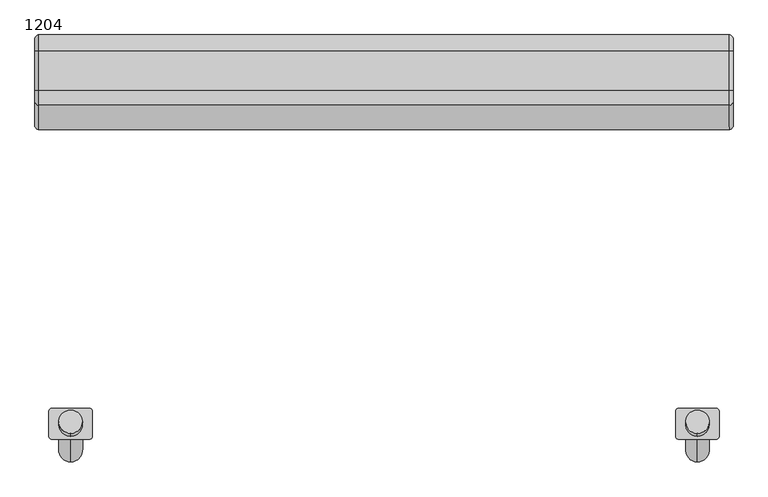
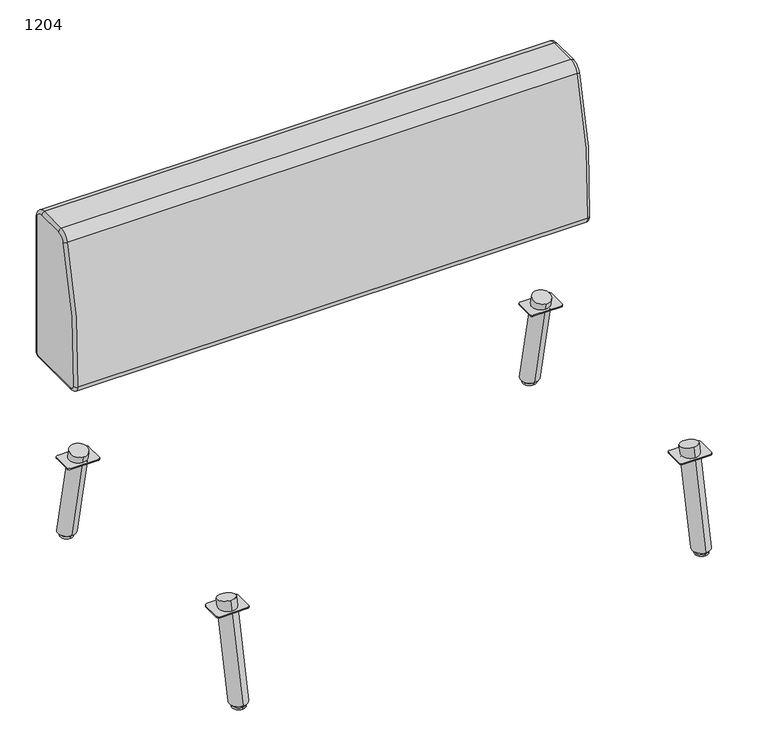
"""IFC4 building model written with IfcOpenShell, lengths in millimetres: furniture geometry, Laguna-Modular-Straight-ERG : 1204."""

from ifc_helpers import new_model, si_unit, point, frame, frame_2d, origin, place, context, project, spatial, polyline, circle_curve, ellipse_curve, trimmed, segment, composite_curve, outline, extrude, source, transform, mapped, element, save
from ifc_brep_helpers import plane_surface, cylinder_surface, revolved_surface, advanced_brep


def furniture_1204_c5cfecb2(model_context):
    return source(origin(), model_context, "Body", "SolidModel", [
        advanced_brep(
        [(-3602.2921763, 1186.8836653, 224.8295715), (-3602.2921763, 1149.6162417, 216.9081361), (-3602.2921763, 1193.5619147, 10.16), (-3602.2921763, 1232.5130913, 10.16)],
        [
            (0, 1, circle_curve(frame((-3602.2921763, 1168.2499535, 220.8688538), z_axis=(0.0, -0.20791169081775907, 0.9781476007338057), x_axis=(0.0, -0.9781476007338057, -0.20791169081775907)), 19.05)),
            (1, 0, circle_curve(frame((-3602.2921763, 1168.2499535, 220.8688538), z_axis=(0.0, -0.20791169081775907, 0.9781476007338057), x_axis=(0.0, -0.9781476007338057, -0.20791169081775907)), 19.05)),
            (1, 2),
            (2, 3, ellipse_curve(frame((-3602.2921763, 1213.037503, 10.16), z_axis=(0.0, 0.0, 1.0), x_axis=(0.0, -1.0, 0.0)), 19.4755883, 19.05)),
            (3, 0),
            (3, 2, ellipse_curve(frame((-3602.2921763, 1213.037503, 10.16), z_axis=(0.0, 0.0, 1.0), x_axis=(0.0, -1.0, 0.0)), 19.4755883, 19.05)),
        ],
        [
            plane_surface(frame((-3602.2921763, 1168.2499535, 220.8688538), z_axis=(0.0, -0.20791169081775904, 0.9781476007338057), x_axis=(1.0, 0.0, 0.0))),
            cylinder_surface(frame((-3602.2921763, 1168.2499535, 220.8688538), z_axis=(0.0, -0.20791169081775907, 0.9781476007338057), x_axis=(0.0, -0.9781476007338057, -0.20791169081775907)), 19.05),
            plane_surface(frame((-3633.679084, 1280.9022773, 10.16), z_axis=(0.0, 0.0, -1.0), x_axis=(1.0, 0.0, 0.0))),
        ],
        [
            (0, [[1, 2]]),
            (1, [[3, 4, 5, -2]]),
            (1, [[-5, 6, -3, -1]]),
            (2, [[-6, -4]]),
        ],
    ),
        advanced_brep(
        [(-4605.5924306, 1186.8836653, 224.8295715), (-4605.5924306, 1149.6162417, 216.9081361), (-4605.5924306, 1193.5619147, 10.16), (-4605.5924306, 1232.5130913, 10.16)],
        [
            (0, 1, circle_curve(frame((-4605.5924306, 1168.2499535, 220.8688538), z_axis=(0.0, -0.20791169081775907, 0.9781476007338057), x_axis=(0.0, -0.9781476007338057, -0.20791169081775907)), 19.05)),
            (1, 0, circle_curve(frame((-4605.5924306, 1168.2499535, 220.8688538), z_axis=(0.0, -0.20791169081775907, 0.9781476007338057), x_axis=(0.0, -0.9781476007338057, -0.20791169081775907)), 19.05)),
            (1, 2),
            (2, 3, ellipse_curve(frame((-4605.5924306, 1213.037503, 10.16), z_axis=(0.0, 0.0, 1.0), x_axis=(0.0, -1.0, 0.0)), 19.4755883, 19.05)),
            (3, 0),
            (3, 2, ellipse_curve(frame((-4605.5924306, 1213.037503, 10.16), z_axis=(0.0, 0.0, 1.0), x_axis=(0.0, -1.0, 0.0)), 19.4755883, 19.05)),
        ],
        [
            plane_surface(frame((-4605.5924306, 1168.2499535, 220.8688538), z_axis=(0.0, -0.20791169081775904, 0.9781476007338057), x_axis=(1.0, 0.0, 0.0))),
            cylinder_surface(frame((-4605.5924306, 1168.2499535, 220.8688538), z_axis=(0.0, -0.20791169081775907, 0.9781476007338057), x_axis=(0.0, -0.9781476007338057, -0.20791169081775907)), 19.05),
            plane_surface(frame((-4636.9793383, 1280.9022773, 10.16), z_axis=(0.0, 0.0, -1.0), x_axis=(1.0, 0.0, 0.0))),
        ],
        [
            (0, [[1, 2]]),
            (1, [[3, 4, 5, -2]]),
            (1, [[-5, 6, -3, -1]]),
            (2, [[-6, -4]]),
        ],
    ),
        advanced_brep(
        [(-3602.2921763, 595.628035, 224.8295715), (-3602.2921763, 632.8954586, 216.9081361), (-3602.2921763, 549.998609, 10.16), (-3602.2921763, 588.9497857, 10.16)],
        [
            (0, 1, circle_curve(frame((-3602.2921763, 614.2617468, 220.8688538), z_axis=(0.0, 0.20791169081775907, 0.9781476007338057), x_axis=(0.0, 0.9781476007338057, -0.20791169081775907)), 19.05)),
            (1, 0, circle_curve(frame((-3602.2921763, 614.2617468, 220.8688538), z_axis=(0.0, 0.20791169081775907, 0.9781476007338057), x_axis=(0.0, 0.9781476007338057, -0.20791169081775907)), 19.05)),
            (0, 2),
            (2, 3, ellipse_curve(frame((-3602.2921763, 569.4741973, 10.16), z_axis=(0.0, 0.0, 1.0), x_axis=(0.0, 1.0, 0.0)), 19.4755883, 19.05)),
            (3, 1),
            (3, 2, ellipse_curve(frame((-3602.2921763, 569.4741973, 10.16), z_axis=(0.0, 0.0, 1.0), x_axis=(0.0, 1.0, 0.0)), 19.4755883, 19.05)),
        ],
        [
            plane_surface(frame((-3602.2921763, 614.2617468, 220.8688538), z_axis=(0.0, 0.20791169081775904, 0.9781476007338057), x_axis=(1.0, 0.0, 0.0))),
            cylinder_surface(frame((-3602.2921763, 614.2617468, 220.8688538), z_axis=(0.0, 0.20791169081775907, 0.9781476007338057), x_axis=(0.0, 0.9781476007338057, -0.20791169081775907)), 19.05),
            plane_surface(frame((-3633.679084, 501.6094231, 10.16), z_axis=(0.0, 0.0, -1.0), x_axis=(1.0, 0.0, 0.0))),
        ],
        [
            (0, [[1, 2]]),
            (1, [[-1, 3, 4, 5]]),
            (1, [[-2, -5, 6, -3]]),
            (2, [[-4, -6]]),
        ],
    ),
        advanced_brep(
        [(-4605.5924306, 595.628035, 224.8295715), (-4605.5924306, 632.8954586, 216.9081361), (-4605.5924306, 549.998609, 10.16), (-4605.5924306, 588.9497857, 10.16)],
        [
            (0, 1, circle_curve(frame((-4605.5924306, 614.2617468, 220.8688538), z_axis=(0.0, 0.20791169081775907, 0.9781476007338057), x_axis=(0.0, 0.9781476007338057, -0.20791169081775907)), 19.05)),
            (1, 0, circle_curve(frame((-4605.5924306, 614.2617468, 220.8688538), z_axis=(0.0, 0.20791169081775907, 0.9781476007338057), x_axis=(0.0, 0.9781476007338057, -0.20791169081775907)), 19.05)),
            (0, 2),
            (2, 3, ellipse_curve(frame((-4605.5924306, 569.4741973, 10.16), z_axis=(0.0, 0.0, 1.0), x_axis=(0.0, 1.0, 0.0)), 19.4755883, 19.05)),
            (3, 1),
            (3, 2, ellipse_curve(frame((-4605.5924306, 569.4741973, 10.16), z_axis=(0.0, 0.0, 1.0), x_axis=(0.0, 1.0, 0.0)), 19.4755883, 19.05)),
        ],
        [
            plane_surface(frame((-4605.5924306, 614.2617468, 220.8688538), z_axis=(0.0, 0.20791169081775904, 0.9781476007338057), x_axis=(1.0, 0.0, 0.0))),
            cylinder_surface(frame((-4605.5924306, 614.2617468, 220.8688538), z_axis=(0.0, 0.20791169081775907, 0.9781476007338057), x_axis=(0.0, 0.9781476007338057, -0.20791169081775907)), 19.05),
            plane_surface(frame((-4636.9793383, 501.6094231, 10.16), z_axis=(0.0, 0.0, -1.0), x_axis=(1.0, 0.0, 0.0))),
        ],
        [
            (0, [[1, 2]]),
            (1, [[-1, 3, 4, 5]]),
            (1, [[-2, -5, 6, -3]]),
            (2, [[-4, -6]]),
        ],
    ),
        extrude(outline(composite_curve([segment(polyline([(-4575.7474306, 586.4558502), (-4635.4374306, 586.4558502)]), True, "CONTINUOUS"), segment(trimmed(circle_curve(frame_2d((-4635.4374306, 591.5358502)), 5.08), [point((-4635.4374306, 586.4558502))], [point((-4640.5174306, 591.5358502))], False, "CARTESIAN"), True, "CONTINUOUS"), segment(polyline([(-4640.5174306, 591.5358502), (-4640.5174306, 630.9058502)]), True, "CONTINUOUS"), segment(trimmed(circle_curve(frame_2d((-4635.4374306, 630.9058502)), 5.08), [point((-4640.5174306, 630.9058502))], [point((-4635.4374306, 635.9858502))], False, "CARTESIAN"), True, "CONTINUOUS"), segment(polyline([(-4635.4374306, 635.9858502), (-4575.7474306, 635.9858502)]), True, "CONTINUOUS"), segment(trimmed(circle_curve(frame_2d((-4575.7474306, 630.9058502)), 5.08), [point((-4575.7474306, 635.9858502))], [point((-4570.6674306, 630.9058502))], False, "CARTESIAN"), True, "CONTINUOUS"), segment(polyline([(-4570.6674306, 630.9058502), (-4570.6674306, 591.5358502)]), True, "CONTINUOUS"), segment(trimmed(circle_curve(frame_2d((-4575.7474306, 591.5358502)), 5.08), [point((-4570.6674306, 591.5358502))], [point((-4575.7474306, 586.4558502))], False, "CARTESIAN"), True, "CONTINUOUS")], self_intersect=False)), frame((0.0, 0.0, 200.66), z_axis=(0.0, 0.0, 1.0), x_axis=(1.0, 0.0, 0.0)), (0.0, 0.0, 1.0), 2.54),
        extrude(outline(composite_curve([segment(trimmed(circle_curve(frame_2d((-4575.7474306, 1190.9758502)), 5.08), [point((-4575.7474306, 1196.0558502))], [point((-4570.6674306, 1190.9758502))], False, "CARTESIAN"), True, "CONTINUOUS"), segment(polyline([(-4570.6674306, 1190.9758502), (-4570.6674306, 1151.6058502)]), True, "CONTINUOUS"), segment(trimmed(circle_curve(frame_2d((-4575.7474306, 1151.6058502)), 5.08), [point((-4570.6674306, 1151.6058502))], [point((-4575.7474306, 1146.5258502))], False, "CARTESIAN"), True, "CONTINUOUS"), segment(polyline([(-4575.7474306, 1146.5258502), (-4635.4374306, 1146.5258502)]), True, "CONTINUOUS"), segment(trimmed(circle_curve(frame_2d((-4635.4374306, 1151.6058502)), 5.08), [point((-4635.4374306, 1146.5258502))], [point((-4640.5174306, 1151.6058502))], False, "CARTESIAN"), True, "CONTINUOUS"), segment(polyline([(-4640.5174306, 1151.6058502), (-4640.5174306, 1190.9758502)]), True, "CONTINUOUS"), segment(trimmed(circle_curve(frame_2d((-4635.4374306, 1190.9758502)), 5.08), [point((-4640.5174306, 1190.9758502))], [point((-4635.4374306, 1196.0558502))], False, "CARTESIAN"), True, "CONTINUOUS"), segment(polyline([(-4635.4374306, 1196.0558502), (-4575.7474306, 1196.0558502)]), True, "CONTINUOUS")], self_intersect=False)), frame((0.0, 0.0, 200.66), z_axis=(0.0, 0.0, 1.0), x_axis=(1.0, 0.0, 0.0)), (0.0, 0.0, 1.0), 2.54),
        extrude(outline(composite_curve([segment(trimmed(circle_curve(frame_2d((-3632.136922, 591.5358502)), 5.08), [point((-3632.136922, 586.4558502))], [point((-3637.216922, 591.5358502))], False, "CARTESIAN"), True, "CONTINUOUS"), segment(polyline([(-3637.216922, 591.5358502), (-3637.216922, 630.9058502)]), True, "CONTINUOUS"), segment(trimmed(circle_curve(frame_2d((-3632.136922, 630.9058502)), 5.08), [point((-3637.216922, 630.9058502))], [point((-3632.136922, 635.9858502))], False, "CARTESIAN"), True, "CONTINUOUS"), segment(polyline([(-3632.136922, 635.9858502), (-3572.446922, 635.9858502)]), True, "CONTINUOUS"), segment(trimmed(circle_curve(frame_2d((-3572.446922, 630.9058502)), 5.08), [point((-3572.446922, 635.9858502))], [point((-3567.366922, 630.9058502))], False, "CARTESIAN"), True, "CONTINUOUS"), segment(polyline([(-3567.366922, 630.9058502), (-3567.366922, 591.5358502)]), True, "CONTINUOUS"), segment(trimmed(circle_curve(frame_2d((-3572.446922, 591.5358502)), 5.08), [point((-3567.366922, 591.5358502))], [point((-3572.446922, 586.4558502))], False, "CARTESIAN"), True, "CONTINUOUS"), segment(polyline([(-3572.446922, 586.4558502), (-3632.136922, 586.4558502)]), True, "CONTINUOUS")], self_intersect=False)), frame((0.0, 0.0, 200.66), z_axis=(0.0, 0.0, 1.0), x_axis=(1.0, 0.0, 0.0)), (0.0, 0.0, 1.0), 2.54),
        extrude(outline(composite_curve([segment(polyline([(-3632.136922, 1196.0558502), (-3572.446922, 1196.0558502)]), True, "CONTINUOUS"), segment(trimmed(circle_curve(frame_2d((-3572.446922, 1190.9758502)), 5.08), [point((-3572.446922, 1196.0558502))], [point((-3567.366922, 1190.9758502))], False, "CARTESIAN"), True, "CONTINUOUS"), segment(polyline([(-3567.366922, 1190.9758502), (-3567.366922, 1151.6058502)]), True, "CONTINUOUS"), segment(trimmed(circle_curve(frame_2d((-3572.446922, 1151.6058502)), 5.08), [point((-3567.366922, 1151.6058502))], [point((-3572.446922, 1146.5258502))], False, "CARTESIAN"), True, "CONTINUOUS"), segment(polyline([(-3572.446922, 1146.5258502), (-3632.136922, 1146.5258502)]), True, "CONTINUOUS"), segment(trimmed(circle_curve(frame_2d((-3632.136922, 1151.6058502)), 5.08), [point((-3632.136922, 1146.5258502))], [point((-3637.216922, 1151.6058502))], False, "CARTESIAN"), True, "CONTINUOUS"), segment(polyline([(-3637.216922, 1151.6058502), (-3637.216922, 1190.9758502)]), True, "CONTINUOUS"), segment(trimmed(circle_curve(frame_2d((-3632.136922, 1190.9758502)), 5.08), [point((-3637.216922, 1190.9758502))], [point((-3632.136922, 1196.0558502))], False, "CARTESIAN"), True, "CONTINUOUS")], self_intersect=False)), frame((0.0, 0.0, 200.66), z_axis=(0.0, 0.0, 1.0), x_axis=(1.0, 0.0, 0.0)), (0.0, 0.0, 1.0), 2.54),
        advanced_brep(
        [(-3602.2921763, 1218.5428448, 10.16), (-3602.2921763, 1210.0567485, 10.16), (-3602.2921763, 1214.2997967, 10.16), (-3602.2921763, 1214.2997967, 0.0), (-3602.2921763, 1200.2214432, 0.0), (-3602.2921763, 1228.3781501, 0.0), (-3602.2921763, 1200.2214432, 3.9615026), (-3602.2921763, 1228.3781501, 3.9615026), (-3602.2921763, 1210.0567485, 3.9615026), (-3602.2921763, 1218.5428448, 3.9615026)],
        [
            (0, 1, circle_curve(frame((-3602.2921763, 1214.2997967, 10.16), z_axis=(0.0, 0.0, 1.0), x_axis=(0.0, -1.0, 0.0)), 4.2430482)),
            (1, 2),
            (2, 0),
            (1, 0, circle_curve(frame((-3602.2921763, 1214.2997967, 10.16), z_axis=(0.0, 0.0, 1.0), x_axis=(0.0, -1.0, 0.0)), 4.2430482)),
            (3, 4),
            (4, 5, circle_curve(frame((-3602.2921763, 1214.2997967, 0.0), z_axis=(0.0, 0.0, -1.0), x_axis=(0.0, -1.0, 0.0)), 14.0783534)),
            (5, 3),
            (5, 4, circle_curve(frame((-3602.2921763, 1214.2997967, 0.0), z_axis=(0.0, 0.0, -1.0), x_axis=(0.0, -1.0, 0.0)), 14.0783534)),
            (4, 6),
            (6, 7, circle_curve(frame((-3602.2921763, 1214.2997967, 3.9615026), z_axis=(0.0, 0.0, -1.0), x_axis=(0.0, -1.0, 0.0)), 14.0783534)),
            (7, 5),
            (7, 6, circle_curve(frame((-3602.2921763, 1214.2997967, 3.9615026), z_axis=(0.0, 0.0, -1.0), x_axis=(0.0, -1.0, 0.0)), 14.0783534)),
            (6, 8),
            (8, 9, circle_curve(frame((-3602.2921763, 1214.2997967, 3.9615026), z_axis=(0.0, 0.0, -1.0), x_axis=(0.0, -1.0, 0.0)), 4.2430482)),
            (9, 7),
            (9, 8, circle_curve(frame((-3602.2921763, 1214.2997967, 3.9615026), z_axis=(0.0, 0.0, -1.0), x_axis=(0.0, -1.0, 0.0)), 4.2430482)),
            (8, 1),
            (0, 9),
        ],
        [
            plane_surface(frame((-3602.2921763, 1214.2997967, 10.16), z_axis=(0.0, 0.0, 1.0), x_axis=(0.0, -1.0, 0.0))),
            plane_surface(frame((-3602.2921763, 1214.2997967, 0.0), z_axis=(0.0, 0.0, -1.0), x_axis=(0.0, -1.0, 0.0))),
            cylinder_surface(frame((-3602.2921763, 1214.2997967, 10.16), z_axis=(0.0, 0.0, -1.0), x_axis=(0.0, -1.0, 0.0)), 14.0783534),
            plane_surface(frame((-3602.2921763, 1214.2997967, 3.9615026), z_axis=(0.0, 0.0, 1.0), x_axis=(0.0, -1.0, 0.0))),
            cylinder_surface(frame((-3602.2921763, 1214.2997967, 10.16), z_axis=(0.0, 0.0, -1.0), x_axis=(0.0, -1.0, 0.0)), 4.2430482),
        ],
        [
            (0, [[1, 2, 3]]),
            (0, [[4, -3, -2]]),
            (1, [[5, 6, 7]]),
            (1, [[-7, 8, -5]]),
            (2, [[-6, 9, 10, 11]]),
            (2, [[-8, -11, 12, -9]]),
            (3, [[-10, 13, 14, 15]]),
            (3, [[-12, -15, 16, -13]]),
            (4, [[-14, 17, -1, 18]]),
            (4, [[-16, -18, -4, -17]]),
        ],
    ),
        advanced_brep(
        [(-4605.5924306, 1218.5428448, 10.16), (-4605.5924306, 1210.0567485, 10.16), (-4605.5924306, 1214.2997967, 10.16), (-4605.5924306, 1214.2997967, 0.0), (-4605.5924306, 1200.2214432, 0.0), (-4605.5924306, 1228.3781501, 0.0), (-4605.5924306, 1200.2214432, 3.9615026), (-4605.5924306, 1228.3781501, 3.9615026), (-4605.5924306, 1210.0567485, 3.9615026), (-4605.5924306, 1218.5428448, 3.9615026)],
        [
            (0, 1, circle_curve(frame((-4605.5924306, 1214.2997967, 10.16), z_axis=(0.0, 0.0, 1.0), x_axis=(0.0, -1.0, 0.0)), 4.2430482)),
            (1, 2),
            (2, 0),
            (1, 0, circle_curve(frame((-4605.5924306, 1214.2997967, 10.16), z_axis=(0.0, 0.0, 1.0), x_axis=(0.0, -1.0, 0.0)), 4.2430482)),
            (3, 4),
            (4, 5, circle_curve(frame((-4605.5924306, 1214.2997967, 0.0), z_axis=(0.0, 0.0, -1.0), x_axis=(0.0, -1.0, 0.0)), 14.0783534)),
            (5, 3),
            (5, 4, circle_curve(frame((-4605.5924306, 1214.2997967, 0.0), z_axis=(0.0, 0.0, -1.0), x_axis=(0.0, -1.0, 0.0)), 14.0783534)),
            (4, 6),
            (6, 7, circle_curve(frame((-4605.5924306, 1214.2997967, 3.9615026), z_axis=(0.0, 0.0, -1.0), x_axis=(0.0, -1.0, 0.0)), 14.0783534)),
            (7, 5),
            (7, 6, circle_curve(frame((-4605.5924306, 1214.2997967, 3.9615026), z_axis=(0.0, 0.0, -1.0), x_axis=(0.0, -1.0, 0.0)), 14.0783534)),
            (6, 8),
            (8, 9, circle_curve(frame((-4605.5924306, 1214.2997967, 3.9615026), z_axis=(0.0, 0.0, -1.0), x_axis=(0.0, -1.0, 0.0)), 4.2430482)),
            (9, 7),
            (9, 8, circle_curve(frame((-4605.5924306, 1214.2997967, 3.9615026), z_axis=(0.0, 0.0, -1.0), x_axis=(0.0, -1.0, 0.0)), 4.2430482)),
            (8, 1),
            (0, 9),
        ],
        [
            plane_surface(frame((-4605.5924306, 1214.2997967, 10.16), z_axis=(0.0, 0.0, 1.0), x_axis=(0.0, -1.0, 0.0))),
            plane_surface(frame((-4605.5924306, 1214.2997967, 0.0), z_axis=(0.0, 0.0, -1.0), x_axis=(0.0, -1.0, 0.0))),
            cylinder_surface(frame((-4605.5924306, 1214.2997967, 10.16), z_axis=(0.0, 0.0, -1.0), x_axis=(0.0, -1.0, 0.0)), 14.0783534),
            plane_surface(frame((-4605.5924306, 1214.2997967, 3.9615026), z_axis=(0.0, 0.0, 1.0), x_axis=(0.0, -1.0, 0.0))),
            cylinder_surface(frame((-4605.5924306, 1214.2997967, 10.16), z_axis=(0.0, 0.0, -1.0), x_axis=(0.0, -1.0, 0.0)), 4.2430482),
        ],
        [
            (0, [[1, 2, 3]]),
            (0, [[4, -3, -2]]),
            (1, [[5, 6, 7]]),
            (1, [[-7, 8, -5]]),
            (2, [[-6, 9, 10, 11]]),
            (2, [[-8, -11, 12, -9]]),
            (3, [[-10, 13, 14, 15]]),
            (3, [[-12, -15, 16, -13]]),
            (4, [[-14, 17, -1, 18]]),
            (4, [[-16, -18, -4, -17]]),
        ],
    ),
        advanced_brep(
        [(-3602.2921763, 568.2119037, 10.16), (-3602.2921763, 572.4549518, 10.16), (-3602.2921763, 563.9688555, 10.16), (-3602.2921763, 554.1335502, 0.0), (-3602.2921763, 582.2902571, 0.0), (-3602.2921763, 568.2119037, 0.0), (-3602.2921763, 554.1335502, 3.9615026), (-3602.2921763, 582.2902571, 3.9615026), (-3602.2921763, 563.9688555, 3.9615026), (-3602.2921763, 572.4549518, 3.9615026)],
        [
            (0, 1),
            (1, 2, circle_curve(frame((-3602.2921763, 568.2119037, 10.16), z_axis=(0.0, 0.0, 1.0), x_axis=(0.0, 1.0, 0.0)), 4.2430482)),
            (2, 0),
            (2, 1, circle_curve(frame((-3602.2921763, 568.2119037, 10.16), z_axis=(0.0, 0.0, 1.0), x_axis=(0.0, 1.0, 0.0)), 4.2430482)),
            (3, 4, circle_curve(frame((-3602.2921763, 568.2119037, 0.0), z_axis=(0.0, 0.0, -1.0), x_axis=(0.0, 1.0, 0.0)), 14.0783534)),
            (4, 5),
            (5, 3),
            (4, 3, circle_curve(frame((-3602.2921763, 568.2119037, 0.0), z_axis=(0.0, 0.0, -1.0), x_axis=(0.0, 1.0, 0.0)), 14.0783534)),
            (6, 7, circle_curve(frame((-3602.2921763, 568.2119037, 3.9615026), z_axis=(0.0, 0.0, -1.0), x_axis=(0.0, 1.0, 0.0)), 14.0783534)),
            (7, 4),
            (3, 6),
            (7, 6, circle_curve(frame((-3602.2921763, 568.2119037, 3.9615026), z_axis=(0.0, 0.0, -1.0), x_axis=(0.0, 1.0, 0.0)), 14.0783534)),
            (8, 9, circle_curve(frame((-3602.2921763, 568.2119037, 3.9615026), z_axis=(0.0, 0.0, -1.0), x_axis=(0.0, 1.0, 0.0)), 4.2430482)),
            (9, 7),
            (6, 8),
            (9, 8, circle_curve(frame((-3602.2921763, 568.2119037, 3.9615026), z_axis=(0.0, 0.0, -1.0), x_axis=(0.0, 1.0, 0.0)), 4.2430482)),
            (1, 9),
            (8, 2),
        ],
        [
            plane_surface(frame((-3602.2921763, 568.2119037, 10.16), z_axis=(0.0, 0.0, 1.0), x_axis=(0.0, 1.0, 0.0))),
            plane_surface(frame((-3602.2921763, 568.2119037, 0.0), z_axis=(0.0, 0.0, -1.0), x_axis=(0.0, 1.0, 0.0))),
            cylinder_surface(frame((-3602.2921763, 568.2119037, 10.16), z_axis=(0.0, 0.0, 1.0), x_axis=(0.0, 1.0, 0.0)), 14.0783534),
            plane_surface(frame((-3602.2921763, 568.2119037, 3.9615026), z_axis=(0.0, 0.0, 1.0), x_axis=(0.0, 1.0, 0.0))),
            cylinder_surface(frame((-3602.2921763, 568.2119037, 10.16), z_axis=(0.0, 0.0, 1.0), x_axis=(0.0, 1.0, 0.0)), 4.2430482),
        ],
        [
            (0, [[1, 2, 3]]),
            (0, [[-3, 4, -1]]),
            (1, [[5, 6, 7]]),
            (1, [[8, -7, -6]]),
            (2, [[9, 10, -5, 11]]),
            (2, [[12, -11, -8, -10]]),
            (3, [[13, 14, -9, 15]]),
            (3, [[16, -15, -12, -14]]),
            (4, [[-2, 17, -13, 18]]),
            (4, [[-4, -18, -16, -17]]),
        ],
    ),
        advanced_brep(
        [(-4605.5924306, 568.2119037, 10.16), (-4605.5924306, 572.4549518, 10.16), (-4605.5924306, 563.9688555, 10.16), (-4605.5924306, 554.1335502, 0.0), (-4605.5924306, 582.2902571, 0.0), (-4605.5924306, 568.2119037, 0.0), (-4605.5924306, 554.1335502, 3.9615026), (-4605.5924306, 582.2902571, 3.9615026), (-4605.5924306, 563.9688555, 3.9615026), (-4605.5924306, 572.4549518, 3.9615026)],
        [
            (0, 1),
            (1, 2, circle_curve(frame((-4605.5924306, 568.2119037, 10.16), z_axis=(0.0, 0.0, 1.0), x_axis=(0.0, 1.0, 0.0)), 4.2430482)),
            (2, 0),
            (2, 1, circle_curve(frame((-4605.5924306, 568.2119037, 10.16), z_axis=(0.0, 0.0, 1.0), x_axis=(0.0, 1.0, 0.0)), 4.2430482)),
            (3, 4, circle_curve(frame((-4605.5924306, 568.2119037, 0.0), z_axis=(0.0, 0.0, -1.0), x_axis=(0.0, 1.0, 0.0)), 14.0783534)),
            (4, 5),
            (5, 3),
            (4, 3, circle_curve(frame((-4605.5924306, 568.2119037, 0.0), z_axis=(0.0, 0.0, -1.0), x_axis=(0.0, 1.0, 0.0)), 14.0783534)),
            (6, 7, circle_curve(frame((-4605.5924306, 568.2119037, 3.9615026), z_axis=(0.0, 0.0, -1.0), x_axis=(0.0, 1.0, 0.0)), 14.0783534)),
            (7, 4),
            (3, 6),
            (7, 6, circle_curve(frame((-4605.5924306, 568.2119037, 3.9615026), z_axis=(0.0, 0.0, -1.0), x_axis=(0.0, 1.0, 0.0)), 14.0783534)),
            (8, 9, circle_curve(frame((-4605.5924306, 568.2119037, 3.9615026), z_axis=(0.0, 0.0, -1.0), x_axis=(0.0, 1.0, 0.0)), 4.2430482)),
            (9, 7),
            (6, 8),
            (9, 8, circle_curve(frame((-4605.5924306, 568.2119037, 3.9615026), z_axis=(0.0, 0.0, -1.0), x_axis=(0.0, 1.0, 0.0)), 4.2430482)),
            (1, 9),
            (8, 2),
        ],
        [
            plane_surface(frame((-4605.5924306, 568.2119037, 10.16), z_axis=(0.0, 0.0, 1.0), x_axis=(0.0, 1.0, 0.0))),
            plane_surface(frame((-4605.5924306, 568.2119037, 0.0), z_axis=(0.0, 0.0, -1.0), x_axis=(0.0, 1.0, 0.0))),
            cylinder_surface(frame((-4605.5924306, 568.2119037, 10.16), z_axis=(0.0, 0.0, 1.0), x_axis=(0.0, 1.0, 0.0)), 14.0783534),
            plane_surface(frame((-4605.5924306, 568.2119037, 3.9615026), z_axis=(0.0, 0.0, 1.0), x_axis=(0.0, 1.0, 0.0))),
            cylinder_surface(frame((-4605.5924306, 568.2119037, 10.16), z_axis=(0.0, 0.0, 1.0), x_axis=(0.0, 1.0, 0.0)), 4.2430482),
        ],
        [
            (0, [[1, 2, 3]]),
            (0, [[-3, 4, -1]]),
            (1, [[5, 6, 7]]),
            (1, [[8, -7, -6]]),
            (2, [[9, 10, -5, 11]]),
            (2, [[12, -11, -8, -10]]),
            (3, [[13, 14, -9, 15]]),
            (3, [[16, -15, -12, -14]]),
            (4, [[-2, 17, -13, 18]]),
            (4, [[-4, -18, -16, -17]]),
        ],
    ),
        advanced_brep(
        [(-3545.1421763, 1221.4558502, 425.45), (-3551.4921763, 1221.4558502, 419.1), (-3551.4921763, 1234.1558502, 431.8), (-3545.1421763, 1227.8058502, 431.8), (-3551.4921763, 1234.1558502, 736.6), (-3545.1421763, 1227.8058502, 736.6), (-3551.4921763, 1208.7558502, 762.0), (-3545.1421763, 1208.7558502, 755.65), (-3551.4921763, 1145.484373, 762.0), (-3545.1421763, 1145.484373, 755.65), (-3551.4921763, 1121.3089686, 744.3916508), (-3545.1421763, 1127.3528197, 742.4437381), (-3551.4921763, 1082.4654689, 435.9339217), (-3545.1421763, 1088.8035624, 436.3225994), (-3551.4921763, 1100.3633388, 419.1), (-3545.1421763, 1100.3633388, 425.45), (-4656.3921763, 1082.4654689, 435.9339217), (-4656.3921763, 1100.3633388, 419.1), (-4656.3921763, 1221.4558502, 419.1), (-4656.3921763, 1234.1558502, 431.8), (-4656.3921763, 1234.1558502, 736.6), (-4656.3921763, 1208.7558502, 762.0), (-4656.3921763, 1145.484373, 762.0), (-4656.3921763, 1121.3089686, 744.3916508), (-4662.7421763, 1227.8058502, 736.6), (-4662.7421763, 1208.7558502, 755.65), (-4662.7421763, 1145.484373, 755.65), (-4662.7421763, 1127.3528197, 742.4437381), (-4662.7421763, 1088.8035624, 436.3225994), (-4662.7421763, 1100.3633388, 425.45), (-4662.7421763, 1221.4558502, 425.45), (-4662.7421763, 1227.8058502, 431.8)],
        [
            (0, 1, circle_curve(frame((-3551.4921763, 1221.4558502, 425.45), z_axis=(0.0, 1.0, 0.0), x_axis=(0.0, 0.0, 1.0)), 6.35)),
            (1, 2, circle_curve(frame((-3551.4921763, 1221.4558502, 431.8), z_axis=(1.0, 0.0, 0.0), x_axis=(0.0, 0.0, -1.0)), 12.7)),
            (2, 3, circle_curve(frame((-3551.4921763, 1227.8058502, 431.8), z_axis=(0.0, 0.0, -1.0), x_axis=(0.0, -1.0, 0.0)), 6.35)),
            (3, 0, circle_curve(frame((-3545.1421763, 1221.4558502, 431.8), z_axis=(-1.0, 0.0, 0.0), x_axis=(0.0, 0.0, -1.0)), 6.35)),
            (2, 4),
            (4, 5, circle_curve(frame((-3551.4921763, 1227.8058502, 736.6), z_axis=(0.0, 0.0, -1.0), x_axis=(0.0, -1.0, 0.0)), 6.35)),
            (5, 3),
            (4, 6, circle_curve(frame((-3551.4921763, 1208.7558502, 736.6), z_axis=(1.0, 0.0, 0.0), x_axis=(0.0, 1.0, 0.0)), 25.4)),
            (6, 7, circle_curve(frame((-3551.4921763, 1208.7558502, 755.65), z_axis=(0.0, 1.0, 0.0), x_axis=(0.0, 0.0, -1.0)), 6.35)),
            (7, 5, circle_curve(frame((-3545.1421763, 1208.7558502, 736.6), z_axis=(-1.0, 0.0, 0.0), x_axis=(0.0, 1.0, 0.0)), 19.05)),
            (6, 8),
            (8, 9, circle_curve(frame((-3551.4921763, 1145.484373, 755.65), z_axis=(0.0, 1.0, 0.0), x_axis=(0.0, 0.0, -1.0)), 6.35)),
            (9, 7),
            (8, 10, circle_curve(frame((-3551.4921763, 1145.484373, 736.6), z_axis=(1.0, 0.0, 0.0), x_axis=(0.0, 0.0, 1.0)), 25.4)),
            (10, 11, circle_curve(frame((-3551.4921763, 1127.3528197, 742.4437381), z_axis=(0.0, 0.30675790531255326, 0.9517875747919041), x_axis=(0.0, 0.9517875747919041, -0.30675790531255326)), 6.35)),
            (11, 9, circle_curve(frame((-3545.1421763, 1145.484373, 736.6), z_axis=(-1.0, 0.0, 0.0), x_axis=(0.0, 0.0, 1.0)), 19.05)),
            (10, 12, circle_curve(frame((-3551.4921763, 1919.1691857, 487.2440105), z_axis=(1.0, 0.0, 0.0), x_axis=(0.0, -0.95178757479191, 0.30675790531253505)), 838.2755126)),
            (12, 13, circle_curve(frame((-3551.4921763, 1088.8035624, 436.3225994), z_axis=(0.0, -0.06120909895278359, 0.9981249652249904), x_axis=(0.0, 0.9981249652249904, 0.06120909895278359)), 6.35)),
            (13, 11, circle_curve(frame((-3545.1421763, 1919.1691857, 487.2440105), z_axis=(-1.0, 0.0, 0.0), x_axis=(0.0, -0.95178757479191, 0.30675790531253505)), 831.9255126)),
            (12, 14, circle_curve(frame((-3551.4921763, 1100.3633388, 437.0314921), z_axis=(1.0, 0.0, 0.0), x_axis=(0.0, -0.9981249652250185, -0.06120909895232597)), 17.9314921)),
            (14, 15, circle_curve(frame((-3551.4921763, 1100.3633388, 425.45), z_axis=(0.0, -0.9999999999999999, 0.0), x_axis=(0.0, 0.0, 0.9999999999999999)), 6.35)),
            (15, 13, circle_curve(frame((-3545.1421763, 1100.3633388, 437.0314921), z_axis=(-1.0, 0.0, 0.0), x_axis=(0.0, -0.9981249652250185, -0.06120909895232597)), 11.5814921)),
            (0, 15),
            (14, 1),
            (12, 16),
            (16, 17, circle_curve(frame((-4656.3921763, 1100.3633388, 437.0314921), z_axis=(1.0, 0.0, 0.0), x_axis=(0.0, 1.0, 0.0)), 17.9314921)),
            (17, 14),
            (17, 18),
            (18, 1),
            (18, 19, circle_curve(frame((-4656.3921763, 1221.4558502, 431.8), z_axis=(1.0, 0.0, 0.0), x_axis=(0.0, 1.0, 0.0)), 12.7)),
            (19, 2),
            (19, 20),
            (20, 4),
            (20, 21, circle_curve(frame((-4656.3921763, 1208.7558502, 736.6), z_axis=(1.0, 0.0, 0.0), x_axis=(0.0, 1.0, 0.0)), 25.4)),
            (21, 6),
            (21, 22),
            (22, 8),
            (22, 23, circle_curve(frame((-4656.3921763, 1145.484373, 736.6), z_axis=(1.0, 0.0, 0.0), x_axis=(0.0, 1.0, 0.0)), 25.4)),
            (23, 10),
            (23, 16, circle_curve(frame((-4656.3921763, 1919.1691857, 487.2440105), z_axis=(1.0, 0.0, 0.0), x_axis=(0.0, 1.0, 0.0)), 838.2755126)),
            (20, 24, circle_curve(frame((-4656.3921763, 1227.8058502, 736.6), z_axis=(0.0, 0.0, 1.0), x_axis=(0.0, -1.0, 0.0)), 6.35)),
            (24, 25, circle_curve(frame((-4662.7421763, 1208.7558502, 736.6), z_axis=(1.0, 0.0, 0.0), x_axis=(0.0, 1.0, 0.0)), 19.05)),
            (25, 21, circle_curve(frame((-4656.3921763, 1208.7558502, 755.65), z_axis=(0.0, 1.0, 0.0), x_axis=(0.0, 0.0, -1.0)), 6.35)),
            (25, 26),
            (26, 22, circle_curve(frame((-4656.3921763, 1145.484373, 755.65), z_axis=(0.0, 1.0, 0.0), x_axis=(0.0, 0.0, -1.0)), 6.35)),
            (26, 27, circle_curve(frame((-4662.7421763, 1145.484373, 736.6), z_axis=(1.0, 0.0, 0.0), x_axis=(0.0, 0.0, 1.0)), 19.05)),
            (27, 23, circle_curve(frame((-4656.3921763, 1127.3528197, 742.4437381), z_axis=(0.0, 0.3067579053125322, 0.9517875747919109), x_axis=(0.0, 0.9517875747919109, -0.3067579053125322)), 6.35)),
            (27, 28, circle_curve(frame((-4662.7421763, 1919.1691857, 487.2440105), z_axis=(1.0, 0.0, 0.0), x_axis=(0.0, -0.95178757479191, 0.30675790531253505)), 831.9255126)),
            (28, 16, circle_curve(frame((-4656.3921763, 1088.8035624, 436.3225994), z_axis=(0.0, -0.06120909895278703, 0.9981249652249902), x_axis=(0.0, 0.9981249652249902, 0.06120909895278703)), 6.35)),
            (28, 29, circle_curve(frame((-4662.7421763, 1100.3633388, 437.0314921), z_axis=(1.0, 0.0, 0.0), x_axis=(0.0, -0.9981249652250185, -0.06120909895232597)), 11.5814921)),
            (29, 17, circle_curve(frame((-4656.3921763, 1100.3633388, 425.45), z_axis=(0.0, -0.9999999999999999, 0.0), x_axis=(0.0, 0.0, 0.9999999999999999)), 6.35)),
            (29, 30),
            (30, 18, circle_curve(frame((-4656.3921763, 1221.4558502, 425.45), z_axis=(0.0, -1.0, 0.0), x_axis=(0.0, 0.0, 1.0)), 6.35)),
            (30, 31, circle_curve(frame((-4662.7421763, 1221.4558502, 431.8), z_axis=(1.0, 0.0, 0.0), x_axis=(0.0, 0.0, -1.0)), 6.35)),
            (31, 19, circle_curve(frame((-4656.3921763, 1227.8058502, 431.8), z_axis=(0.0, 0.0, -1.0), x_axis=(0.0, -1.0, 0.0)), 6.35)),
            (31, 24),
        ],
        [
            revolved_surface(trimmed(ellipse_curve(frame((-3551.4921763, 1221.4558502, 425.45), z_axis=(0.0, -1.0, 0.0), x_axis=(0.0, 0.0, 1.0)), 6.35, 6.35), [point((-3551.4921763, 1221.4558502, 419.1))], [point((-3545.1421763, 1221.4558502, 425.45))], True, "CARTESIAN"), (-3551.4921763, 1221.4558502, 431.8), (1.0, 0.0, 0.0)),
            cylinder_surface(frame((-3551.4921763, 1227.8058502, 431.8), z_axis=(0.0, 0.0, -1.0), x_axis=(0.0, -1.0, 0.0)), 6.35),
            revolved_surface(trimmed(ellipse_curve(frame((-3551.4921763, 1227.8058502, 736.6), z_axis=(0.0, 0.0, -1.0), x_axis=(0.0, -1.0, 0.0)), 6.35, 6.35), [point((-3551.4921763, 1234.1558502, 736.6))], [point((-3545.1421763, 1227.8058502, 736.6))], True, "CARTESIAN"), (-3551.4921763, 1208.7558502, 736.6), (1.0, 0.0, 0.0)),
            cylinder_surface(frame((-3551.4921763, 1208.7558502, 755.65), z_axis=(0.0, 1.0, 0.0), x_axis=(0.0, 0.0, -1.0)), 6.35),
            revolved_surface(trimmed(ellipse_curve(frame((-3551.4921763, 1145.484373, 755.65), z_axis=(0.0, 1.0, 0.0), x_axis=(0.0, 0.0, -1.0)), 6.35, 6.35), [point((-3551.4921763, 1145.484373, 762.0))], [point((-3545.1421763, 1145.484373, 755.65))], True, "CARTESIAN"), (-3551.4921763, 1145.484373, 736.6), (1.0, 0.0, 0.0)),
            revolved_surface(trimmed(ellipse_curve(frame((-3551.4921763, 1127.3528197, 742.4437381), z_axis=(0.0, 0.3067579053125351, 0.95178757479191), x_axis=(0.0, 0.95178757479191, -0.3067579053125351)), 6.35, 6.35), [point((-3551.4921763, 1121.3089686, 744.3916508))], [point((-3545.1421763, 1127.3528197, 742.4437381))], True, "CARTESIAN"), (-3551.4921763, 1919.1691857, 487.2440105), (1.0, 0.0, 0.0)),
            revolved_surface(trimmed(ellipse_curve(frame((-3551.4921763, 1088.8035624, 436.3225994), z_axis=(0.0, -0.06120909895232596, 0.9981249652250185), x_axis=(0.0, 0.9981249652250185, 0.06120909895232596)), 6.35, 6.35), [point((-3551.4921763, 1082.4654689, 435.9339217))], [point((-3545.1421763, 1088.8035624, 436.3225994))], True, "CARTESIAN"), (-3551.4921763, 1100.3633388, 437.0314921), (1.0, 0.0, 0.0)),
            cylinder_surface(frame((-3551.4921763, 1100.3633388, 425.45), z_axis=(0.0, -1.0, 0.0), x_axis=(0.0, 0.0, 1.0)), 6.35),
            plane_surface(frame((-3545.1421763, 1221.4558502, 425.45), z_axis=(1.0, 0.0, 0.0), x_axis=(0.0, 1.0, 0.0))),
            cylinder_surface(frame((-4656.3921763, 1100.3633388, 437.0314921), z_axis=(1.0, 0.0, 0.0), x_axis=(0.0, 1.0, 0.0)), 17.9314921),
            plane_surface(frame((-3551.4921763, 1100.3633388, 419.1), z_axis=(0.0, 0.0, -1.0), x_axis=(-1.0, 0.0, 0.0))),
            cylinder_surface(frame((-4656.3921763, 1221.4558502, 431.8), z_axis=(1.0, 0.0, 0.0), x_axis=(0.0, 1.0, 0.0)), 12.7),
            plane_surface(frame((-3551.4921763, 1234.1558502, 431.8), z_axis=(0.0, 1.0, 0.0), x_axis=(-1.0, 0.0, 0.0))),
            cylinder_surface(frame((-4656.3921763, 1208.7558502, 736.6), z_axis=(1.0, 0.0, 0.0), x_axis=(0.0, 1.0, 0.0)), 25.4),
            plane_surface(frame((-3551.4921763, 1208.7558502, 762.0), z_axis=(0.0, 0.0, 1.0), x_axis=(-1.0, 0.0, 0.0))),
            cylinder_surface(frame((-4656.3921763, 1145.484373, 736.6), z_axis=(1.0, 0.0, 0.0), x_axis=(0.0, 1.0, 0.0)), 25.4),
            cylinder_surface(frame((-4656.3921763, 1919.1691857, 487.2440105), z_axis=(1.0, 0.0, 0.0), x_axis=(0.0, 1.0, 0.0)), 838.2755126),
            revolved_surface(trimmed(ellipse_curve(frame((-4656.3921763, 1227.8058502, 736.6), z_axis=(0.0, 0.0, -1.0), x_axis=(0.0, -1.0, 0.0)), 6.35, 6.35), [point((-4662.7421763, 1227.8058502, 736.6))], [point((-4656.3921763, 1234.1558502, 736.6))], True, "CARTESIAN"), (-4656.3921763, 1208.7558502, 736.6), (1.0, 0.0, 0.0)),
            cylinder_surface(frame((-4656.3921763, 1208.7558502, 755.65), z_axis=(0.0, 1.0, 0.0), x_axis=(0.0, 0.0, -1.0)), 6.35),
            revolved_surface(trimmed(ellipse_curve(frame((-4656.3921763, 1145.484373, 755.65), z_axis=(0.0, 1.0, 0.0), x_axis=(0.0, 0.0, -1.0)), 6.35, 6.35), [point((-4662.7421763, 1145.484373, 755.65))], [point((-4656.3921763, 1145.484373, 762.0))], True, "CARTESIAN"), (-4656.3921763, 1145.484373, 736.6), (1.0, 0.0, 0.0)),
            revolved_surface(trimmed(ellipse_curve(frame((-4656.3921763, 1127.3528197, 742.4437381), z_axis=(0.0, 0.3067579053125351, 0.95178757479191), x_axis=(0.0, 0.95178757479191, -0.3067579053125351)), 6.35, 6.35), [point((-4662.7421763, 1127.3528197, 742.4437381))], [point((-4656.3921763, 1121.3089686, 744.3916508))], True, "CARTESIAN"), (-4656.3921763, 1919.1691857, 487.2440105), (1.0, 0.0, 0.0)),
            revolved_surface(trimmed(ellipse_curve(frame((-4656.3921763, 1088.8035624, 436.3225994), z_axis=(0.0, -0.061209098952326, 0.9981249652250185), x_axis=(0.0, 0.9981249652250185, 0.061209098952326)), 6.35, 6.35), [point((-4662.7421763, 1088.8035624, 436.3225994))], [point((-4656.3921763, 1082.4654689, 435.9339217))], True, "CARTESIAN"), (-4656.3921763, 1100.3633388, 437.0314921), (1.0, 0.0, 0.0)),
            cylinder_surface(frame((-4656.3921763, 1100.3633388, 425.45), z_axis=(0.0, -1.0, 0.0), x_axis=(0.0, 0.0, 1.0)), 6.35),
            revolved_surface(trimmed(ellipse_curve(frame((-4656.3921763, 1221.4558502, 425.45), z_axis=(0.0, -1.0, 0.0), x_axis=(0.0, 0.0, 1.0)), 6.35, 6.35), [point((-4662.7421763, 1221.4558502, 425.45))], [point((-4656.3921763, 1221.4558502, 419.1))], True, "CARTESIAN"), (-4656.3921763, 1221.4558502, 431.8), (1.0, 0.0, 0.0)),
            cylinder_surface(frame((-4656.3921763, 1227.8058502, 431.8), z_axis=(0.0, 0.0, -1.0), x_axis=(0.0, -1.0, 0.0)), 6.35),
            plane_surface(frame((-4662.7421763, 1227.8058502, 736.6), z_axis=(-1.0, 0.0, 0.0), x_axis=(0.0, 0.0, -1.0))),
        ],
        [
            (0, [[1, 2, 3, 4]]),
            (1, [[-3, 5, 6, 7]]),
            (2, [[-6, 8, 9, 10]]),
            (3, [[-9, 11, 12, 13]]),
            (4, [[-12, 14, 15, 16]]),
            (5, [[-15, 17, 18, 19]]),
            (6, [[-18, 20, 21, 22]]),
            (7, [[-1, 23, -21, 24]]),
            (8, [[-4, -7, -10, -13, -16, -19, -22, -23]]),
            (9, [[25, 26, 27, -20]]),
            (10, [[-27, 28, 29, -24]]),
            (11, [[-29, 30, 31, -2]]),
            (12, [[-31, 32, 33, -5]]),
            (13, [[-33, 34, 35, -8]]),
            (14, [[-35, 36, 37, -11]]),
            (15, [[-37, 38, 39, -14]]),
            (16, [[-25, -17, -39, 40]]),
            (17, [[41, 42, 43, -34]]),
            (18, [[-43, 44, 45, -36]]),
            (19, [[-45, 46, 47, -38]]),
            (20, [[-47, 48, 49, -40]]),
            (21, [[-49, 50, 51, -26]]),
            (22, [[-51, 52, 53, -28]]),
            (23, [[-53, 54, 55, -30]]),
            (24, [[-41, -32, -55, 56]]),
            (25, [[-42, -56, -54, -52, -50, -48, -46, -44]]),
        ],
    ),
    ])


if __name__ == "__main__":
    model = new_model("IFC4")
    model_context = context("Model", 3, world=origin())
    ifc_project = project(units=[si_unit("LENGTHUNIT", "METRE", prefix="MILLI")], contexts=[model_context])
    site = spatial("IfcSite", under=ifc_project)
    building = spatial("IfcBuilding", under=site)
    placement = place(None, origin())
    furniture_1204_shape = furniture_1204_c5cfecb2(model_context)
    element("IfcFurniture", 1, ObjectType="Laguna-Modular-Straight-ERG : 1204", at=placement, inside=building, context=model_context, shape_type="MappedRepresentation", body=[
        mapped(furniture_1204_shape, transform((0.0, 0.0, 0.0), x_axis=(1.0, 0.0, 0.0), y_axis=(0.0, 1.0, 0.0), z_axis=(0.0, 0.0, 1.0))),
    ])
    save(model, "model.ifc")
